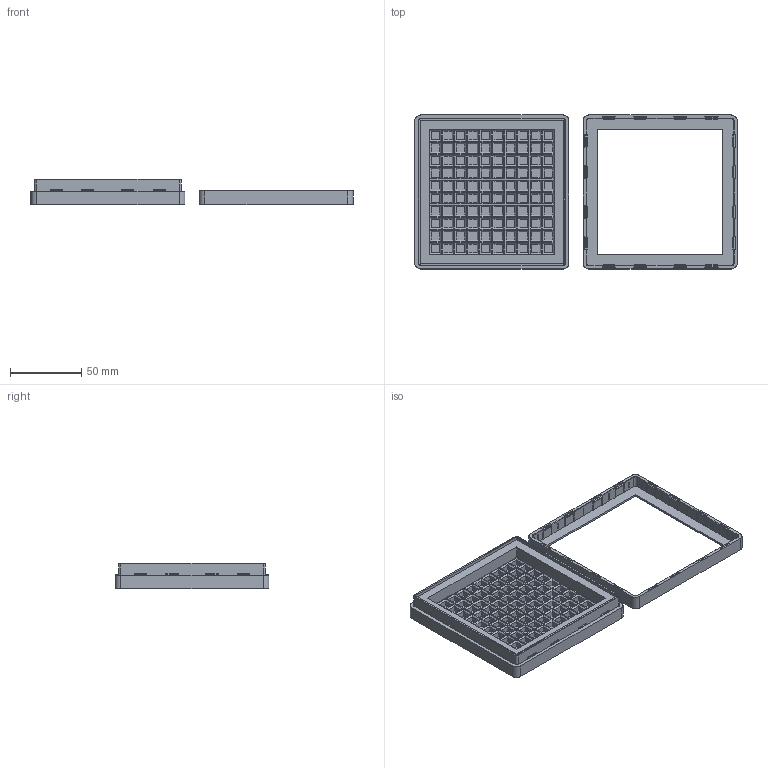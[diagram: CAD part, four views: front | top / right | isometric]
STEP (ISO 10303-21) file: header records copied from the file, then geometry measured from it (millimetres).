
FILE_DESCRIPTION(('FreeCAD Model'),'2;1');
FILE_NAME('Open CASCADE Shape Model','2026-10-10T20:58:07',(''),(''), 'Open CASCADE STEP processor 7.8','FreeCAD','Unknown');
FILE_SCHEMA(('AUTOMOTIVE_DESIGN { 1 0 10303 214 1 1 1 1 }'));
Products named in the file (2): Base; Lid
Bounding box: 226 x 108 x 17.6 mm (x, y, z)
Volume: 98005 mm3; surface area: 64378.3 mm2
Topology: 2 solids, 2 shells, 1980 faces, 4752 edges, 3016 vertices
Faces by surface type: bspline 1980
Entity records: 109250 total; most frequent: CARTESIAN_POINT 45705, B_SPLINE_CURVE_WITH_KNOTS 14120, ORIENTED_EDGE 9504, PCURVE 9504, DEFINITIONAL_REPRESENTATION 9504, EDGE_CURVE 4752, SURFACE_CURVE 4752, VERTEX_POINT 3016
